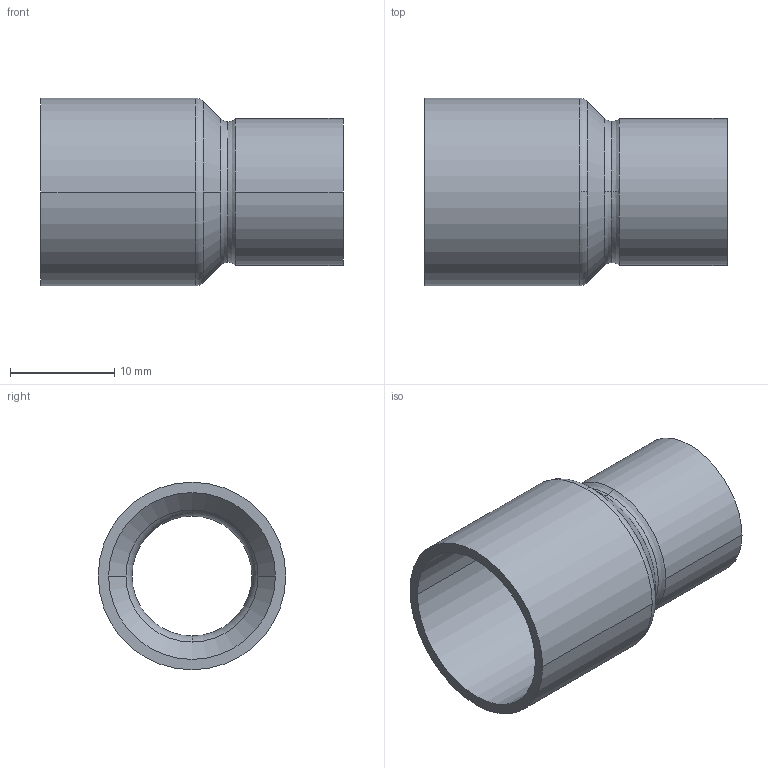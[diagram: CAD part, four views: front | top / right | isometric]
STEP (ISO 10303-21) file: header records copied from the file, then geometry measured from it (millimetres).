
FILE_DESCRIPTION((''),'2;1');
FILE_NAME('G:\Technics\CAD\Bauteile\Serie 15243\152431812.stp','2005-10-21T12:49:34',('boden'),(''),'Autodesk Inventor 8','Autodesk Inventor 8','');
FILE_SCHEMA(('AUTOMOTIVE_DESIGN { 1 0 10303 214 1 1 1 1 }'));
Length unit declared in the file: millimetre
Products named in the file (1): 152431812
Bounding box: 29 x 18 x 18 mm (x, y, z)
Volume: 1430.3 mm3; surface area: 2955.5 mm2
Topology: 1 solids, 1 shells, 24 faces, 60 edges, 38 vertices
Faces by surface type: cylinder 8, torus 6, bspline 4, cone 4, plane 2
Entity records: 931 total; most frequent: CARTESIAN_POINT 299, DIRECTION 150, ORIENTED_EDGE 120, AXIS2_PLACEMENT_3D 69, EDGE_CURVE 60, CIRCLE 48, VERTEX_POINT 38, EDGE_LOOP 26
